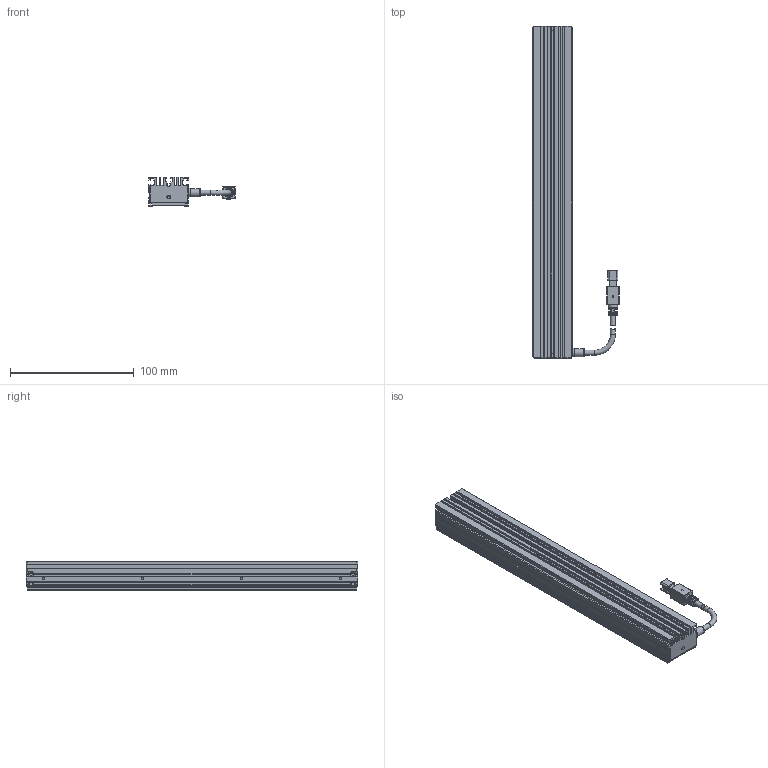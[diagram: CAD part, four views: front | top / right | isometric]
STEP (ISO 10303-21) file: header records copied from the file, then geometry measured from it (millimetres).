
FILE_DESCRIPTION (( 'STEP AP203' ), '1' );
FILE_NAME ('OPT-ULI26832-UV-V1.0U 尨砩芞.STEP', '2024-12-10T11:13:04', ( '' ), ( '' ), 'SwSTEP 2.0', 'SolidWorks 2016', '' );
FILE_SCHEMA (( 'CONFIG_CONTROL_DESIGN' ));
Length unit declared in the file: millimetre
Products named in the file (1): OPT-ULI26832-UV-V1.0U 尨砩芞
Bounding box: 69.6 x 268 x 24 mm (x, y, z)
Volume: 161973.5 mm3; surface area: 68018.5 mm2
Topology: 5 solids, 15 shells, 623 faces, 1616 edges, 1048 vertices
Faces by surface type: plane 432, cylinder 136, cone 30, bspline 17, torus 8
Full cylindrical faces by diameter (mm): 1.1 x2, 1.4 x4, 1.6 x9, 2 x15, 2.4 x7, 2.5 x2, 2.6 x2, 3 x2, 4.1 x4, 6.5 x1, 7 x1, 7.5 x1
Entity records: 18897 total; most frequent: CARTESIAN_POINT 4279, ORIENTED_EDGE 2980, DIRECTION 2895, EDGE_CURVE 1490, VECTOR 1043, LINE 1043, VERTEX_POINT 1002, AXIS2_PLACEMENT_3D 926
